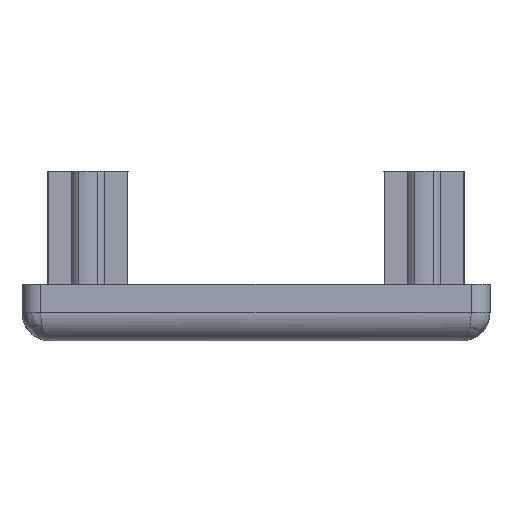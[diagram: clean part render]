
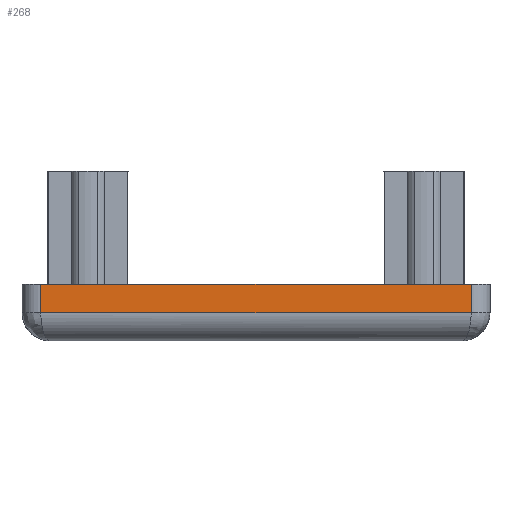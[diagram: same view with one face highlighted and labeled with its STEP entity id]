
A CAD part, front view. The second image highlights one B-rep face of the part: STEP entity #268.
In plain terms, the highlighted planar face has unit normal (0, -1, 0).
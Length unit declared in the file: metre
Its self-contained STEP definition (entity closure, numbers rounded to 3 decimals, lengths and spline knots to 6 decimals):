
#268 = ADVANCED_FACE( 'NONE', ( #579 ), #580, .F. );
#579 = FACE_OUTER_BOUND( '', #1116, .T. );
#580 = PLANE( '', #1117 );
#1116 = EDGE_LOOP( '', ( #1854, #1855, #1856, #1857 ) );
#1117 = AXIS2_PLACEMENT_3D( '', #1858, #1859, #1860 );
#1854 = ORIENTED_EDGE( '', *, *, #2556, .T. );
#1855 = ORIENTED_EDGE( '', *, *, #2500, .T. );
#1856 = ORIENTED_EDGE( '', *, *, #2569, .T. );
#1857 = ORIENTED_EDGE( '', *, *, #2455, .F. );
#1858 = CARTESIAN_POINT( '', ( -0.0124, -0.0124, 0.003 ) );
#1859 = DIRECTION( '', ( 0., 1., 0. ) );
#1860 = DIRECTION( '', ( 1., 0., 0. ) );
#2455 = EDGE_CURVE( 'NONE', #2987, #2989, #2990, .F. );
#2500 = EDGE_CURVE( 'NONE', #3050, #2744, #3054, .T. );
#2556 = EDGE_CURVE( 'NONE', #2987, #3050, #3132, .T. );
#2569 = EDGE_CURVE( 'NONE', #2744, #2989, #3148, .T. );
#2744 = VERTEX_POINT( 'NONE', #3405 );
#2987 = VERTEX_POINT( 'NONE', #3758 );
#2989 = VERTEX_POINT( 'NONE', #3760 );
#2990 = LINE( '', #3761, #3762 );
#3050 = VERTEX_POINT( 'NONE', #3872 );
#3054 = LINE( '', #3889, #3890 );
#3132 = LINE( '', #3996, #3997 );
#3148 = LINE( '', #4019, #4020 );
#3405 = CARTESIAN_POINT( '', ( 0.0114, -0.0124, 0.0015 ) );
#3758 = CARTESIAN_POINT( '', ( -0.0114, -0.0124, 0.003 ) );
#3760 = CARTESIAN_POINT( '', ( 0.0114, -0.0124, 0.003 ) );
#3761 = CARTESIAN_POINT( '', ( -0.0124, -0.0124, 0.003 ) );
#3762 = VECTOR( '', #4373, 1. );
#3872 = CARTESIAN_POINT( '', ( -0.0114, -0.0124, 0.0015 ) );
#3889 = CARTESIAN_POINT( '', ( -0.0124, -0.0124, 0.0015 ) );
#3890 = VECTOR( '', #4425, 1. );
#3996 = CARTESIAN_POINT( '', ( -0.0114, -0.0124, 0.003 ) );
#3997 = VECTOR( '', #4493, 1. );
#4019 = CARTESIAN_POINT( '', ( 0.0114, -0.0124, 0.003 ) );
#4020 = VECTOR( '', #4509, 1. );
#4373 = DIRECTION( '', ( -1., 0., 0. ) );
#4425 = DIRECTION( '', ( 1., 0., 0. ) );
#4493 = DIRECTION( '', ( 0., 0., -1. ) );
#4509 = DIRECTION( '', ( 0., 0., 1. ) );
